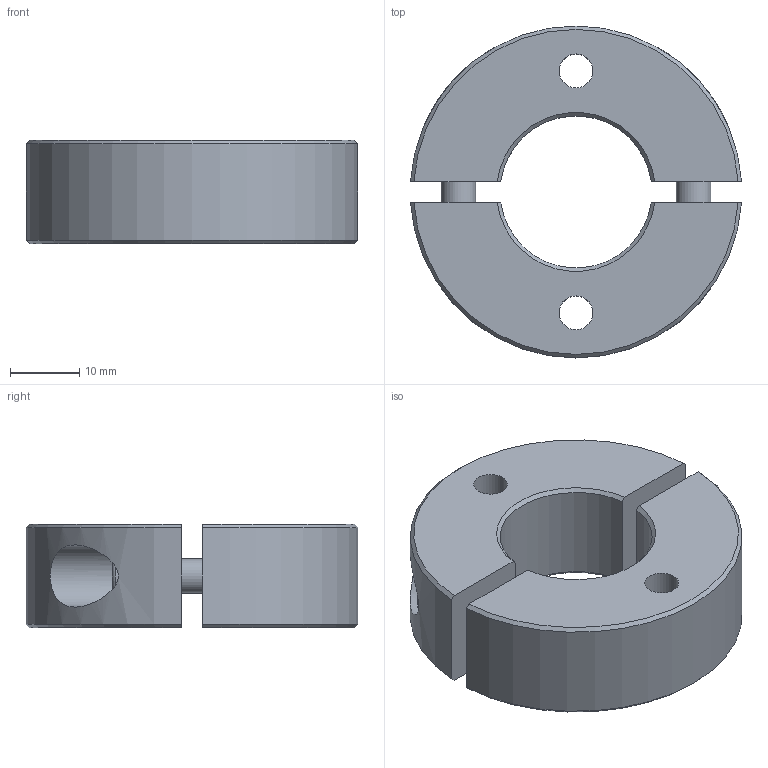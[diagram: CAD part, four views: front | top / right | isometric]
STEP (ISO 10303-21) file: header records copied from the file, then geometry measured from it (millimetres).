
FILE_DESCRIPTION( ( 'STEP AP203' ), '1' );
FILE_NAME( 'C:/Temp/Ganter_Step_05_03_2020/data/3_2/gn7072_2/Split Stainless Steel-Set collar GN 7072.2-48-B22-NI-C.stp', '2020-03-13T05:41:07', ( 'License CC BY-ND 4.0' ), ( 'CADENAS' ), ' ', 'PARTsolutions', ' ' );
FILE_SCHEMA( ( 'CONFIG_CONTROL_DESIGN' ) );
Length unit declared in the file: millimetre
Products named in the file (1): _Split Stainless Steel-Set collar GN 7072.2-48-B22-NI-C
Bounding box: 47.91 x 48 x 15 mm (x, y, z)
Volume: 18929 mm3; surface area: 8041.8 mm2
Topology: 1 solids, 1 shells, 52 faces, 123 edges, 83 vertices
Faces by surface type: plane 28, cylinder 14, cone 8, torus 2
Full cylindrical faces by diameter (mm): 4.917 x2, 5 x2, 5.4 x2, 8.5 x2, 9 x2
Entity records: 1616 total; most frequent: CARTESIAN_POINT 431, DIRECTION 230, ORIENTED_EDGE 212, EDGE_CURVE 106, AXIS2_PLACEMENT_3D 89, EDGE_LOOP 80, VERTEX_POINT 78, FACE_OUTER_BOUND 64
